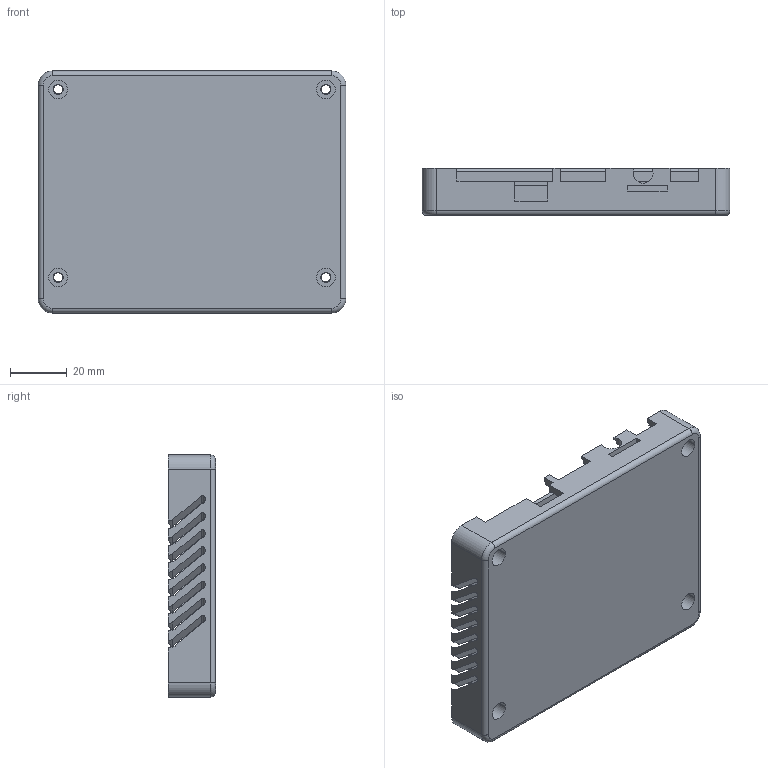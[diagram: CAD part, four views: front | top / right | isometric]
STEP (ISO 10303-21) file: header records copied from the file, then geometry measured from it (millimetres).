
FILE_DESCRIPTION((''),'2;1');
FILE_NAME('64001219_BASE_CC6_SBC_V1','2015-02-04T',('mlarsen'),(''),'PRO/ENGINEER BY PARAMETRIC TECHNOLOGY CORPORATION, 2014090','PRO/ENGINEER BY PARAMETRIC TECHNOLOGY CORPORATION, 2014090','');
FILE_SCHEMA(('CONFIG_CONTROL_DESIGN'));
Length unit declared in the file: millimetre
Products named in the file (1): 64001219_BASE_CC6_SBC_V1
Bounding box: 108 x 16.5 x 85 mm (x, y, z)
Volume: 34701 mm3; surface area: 44859.7 mm2
Topology: 1 solids, 2 shells, 337 faces, 973 edges, 644 vertices
Faces by surface type: plane 174, cylinder 153, torus 4, cone 4, bspline 2
Entity records: 11568 total; most frequent: CARTESIAN_POINT 2630, ORIENTED_EDGE 1946, DIRECTION 1699, EDGE_CURVE 973, VERTEX_POINT 644, VECTOR 583, LINE 583, AXIS2_PLACEMENT_3D 558
